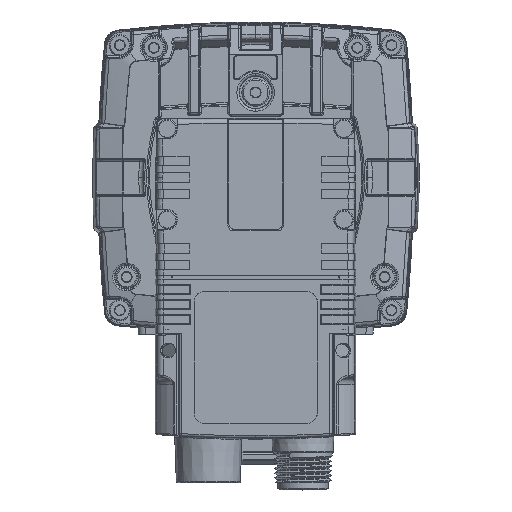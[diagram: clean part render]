
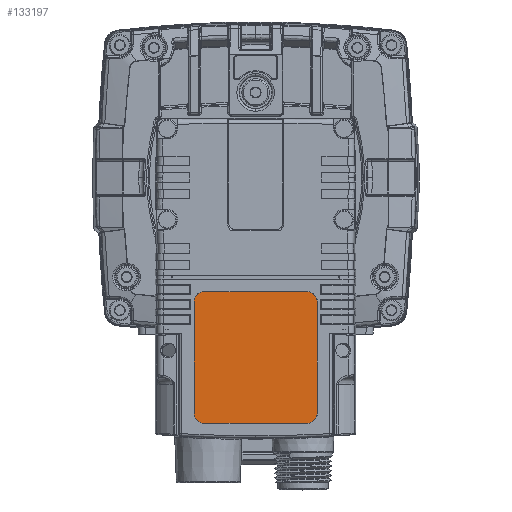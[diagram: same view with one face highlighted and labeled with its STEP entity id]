
A CAD part, top view. The second image highlights one B-rep face of the part: STEP entity #133197.
In plain terms, the highlighted planar face has unit normal (0, 0, 1).
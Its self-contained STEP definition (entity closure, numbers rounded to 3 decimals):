
#8927 = LINE ( 'NONE', #158593, #23353 ) ;
#10642 = CARTESIAN_POINT ( 'NONE',  ( 13., -4.15, 23.95 ) ) ;
#10677 = DIRECTION ( 'NONE',  ( 1., 0., 0. ) ) ;
#13452 = EDGE_CURVE ( 'NONE', #150553, #93275, #120206, .T. ) ;
#15813 = AXIS2_PLACEMENT_3D ( 'NONE', #208673, #74120, #61145 ) ;
#18840 = CARTESIAN_POINT ( 'NONE',  ( 10.929, -49.846, 23.95 ) ) ;
#20946 = DIRECTION ( 'NONE',  ( 0., 1., 0. ) ) ;
#23353 = VECTOR ( 'NONE', #191981, 1000. ) ;
#24623 = CARTESIAN_POINT ( 'NONE',  ( -10.929, -26.215, 23.95 ) ) ;
#25291 = DIRECTION ( 'NONE',  ( 1., 0., 0. ) ) ;
#27256 = ORIENTED_EDGE ( 'NONE', *, *, #180377, .T. ) ;
#37120 = CARTESIAN_POINT ( 'NONE',  ( 10.929, -26.215, 23.95 ) ) ;
#44652 = CARTESIAN_POINT ( 'NONE',  ( 0., -51.918, 23.95 ) ) ;
#49134 = EDGE_CURVE ( 'NONE', #118717, #124211, #105550, .T. ) ;
#49553 = VECTOR ( 'NONE', #103002, 1000. ) ;
#57027 = FACE_OUTER_BOUND ( 'NONE', #182271, .T. ) ;
#59420 = VERTEX_POINT ( 'NONE', #213215 ) ;
#61145 = DIRECTION ( 'NONE',  ( 0., 1., 0. ) ) ;
#61214 = DIRECTION ( 'NONE',  ( 0., 0., 1. ) ) ;
#63979 = VERTEX_POINT ( 'NONE', #102033 ) ;
#64926 = ORIENTED_EDGE ( 'NONE', *, *, #13452, .T. ) ;
#68040 = CIRCLE ( 'NONE', #164306, 2.071 ) ;
#74120 = DIRECTION ( 'NONE',  ( 0., 0., 1. ) ) ;
#74881 = LINE ( 'NONE', #44652, #143090 ) ;
#81158 = ORIENTED_EDGE ( 'NONE', *, *, #187251, .F. ) ;
#81588 = ORIENTED_EDGE ( 'NONE', *, *, #131981, .F. ) ;
#83751 = CARTESIAN_POINT ( 'NONE',  ( 10.929, -51.918, 23.95 ) ) ;
#86230 = ORIENTED_EDGE ( 'NONE', *, *, #49134, .F. ) ;
#86258 = EDGE_CURVE ( 'NONE', #59420, #124211, #74881, .T. ) ;
#89283 = CARTESIAN_POINT ( 'NONE',  ( -13., -26.215, 23.95 ) ) ;
#92559 = DIRECTION ( 'NONE',  ( 0., 0., 1. ) ) ;
#93275 = VERTEX_POINT ( 'NONE', #139652 ) ;
#98599 = DIRECTION ( 'NONE',  ( 0., 0., -1. ) ) ;
#99478 = AXIS2_PLACEMENT_3D ( 'NONE', #174339, #92559, #10677 ) ;
#101120 = CIRCLE ( 'NONE', #187056, 2.071 ) ;
#102033 = CARTESIAN_POINT ( 'NONE',  ( -13., -49.846, 23.95 ) ) ;
#103002 = DIRECTION ( 'NONE',  ( -1., 0., 0. ) ) ;
#105550 = CIRCLE ( 'NONE', #157209, 2.071 ) ;
#108641 = DIRECTION ( 'NONE',  ( 0., -1., 0. ) ) ;
#110372 = CARTESIAN_POINT ( 'NONE',  ( 10.929, -24.144, 23.95 ) ) ;
#112220 = ORIENTED_EDGE ( 'NONE', *, *, #197083, .T. ) ;
#118496 = CARTESIAN_POINT ( 'NONE',  ( 13., -26.215, 23.95 ) ) ;
#118717 = VERTEX_POINT ( 'NONE', #182923 ) ;
#120206 = LINE ( 'NONE', #138495, #49553 ) ;
#123702 = DIRECTION ( 'NONE',  ( 0., 1., 0. ) ) ;
#124211 = VERTEX_POINT ( 'NONE', #83751 ) ;
#128241 = EDGE_CURVE ( 'NONE', #165395, #63979, #8927, .T. ) ;
#131981 = EDGE_CURVE ( 'NONE', #178070, #118717, #172168, .T. ) ;
#133197 = ADVANCED_FACE ( 'NONE', ( #57027 ), #157124, .T. ) ;
#134321 = ORIENTED_EDGE ( 'NONE', *, *, #128241, .T. ) ;
#138495 = CARTESIAN_POINT ( 'NONE',  ( 0., -24.144, 23.95 ) ) ;
#139652 = CARTESIAN_POINT ( 'NONE',  ( -10.929, -24.144, 23.95 ) ) ;
#143090 = VECTOR ( 'NONE', #25291, 1000. ) ;
#150553 = VERTEX_POINT ( 'NONE', #110372 ) ;
#156761 = CIRCLE ( 'NONE', #15813, 2.071 ) ;
#157124 = PLANE ( 'NONE',  #99478 ) ;
#157209 = AXIS2_PLACEMENT_3D ( 'NONE', #18840, #98599, #166383 ) ;
#158593 = CARTESIAN_POINT ( 'NONE',  ( -13., -4.15, 23.95 ) ) ;
#162721 = ORIENTED_EDGE ( 'NONE', *, *, #86258, .T. ) ;
#164306 = AXIS2_PLACEMENT_3D ( 'NONE', #24623, #61214, #123702 ) ;
#165395 = VERTEX_POINT ( 'NONE', #89283 ) ;
#166383 = DIRECTION ( 'NONE',  ( 0., 1., 0. ) ) ;
#172168 = LINE ( 'NONE', #10642, #202302 ) ;
#174339 = CARTESIAN_POINT ( 'NONE',  ( 0., -4.15, 23.95 ) ) ;
#178070 = VERTEX_POINT ( 'NONE', #118496 ) ;
#180377 = EDGE_CURVE ( 'NONE', #63979, #59420, #156761, .T. ) ;
#182271 = EDGE_LOOP ( 'NONE', ( #134321, #27256, #162721, #86230, #81588, #81158, #64926, #112220 ) ) ;
#182923 = CARTESIAN_POINT ( 'NONE',  ( 13., -49.846, 23.95 ) ) ;
#187056 = AXIS2_PLACEMENT_3D ( 'NONE', #37120, #198702, #20946 ) ;
#187251 = EDGE_CURVE ( 'NONE', #150553, #178070, #101120, .T. ) ;
#191981 = DIRECTION ( 'NONE',  ( 0., -1., 0. ) ) ;
#197083 = EDGE_CURVE ( 'NONE', #93275, #165395, #68040, .T. ) ;
#198702 = DIRECTION ( 'NONE',  ( 0., 0., -1. ) ) ;
#202302 = VECTOR ( 'NONE', #108641, 1000. ) ;
#208673 = CARTESIAN_POINT ( 'NONE',  ( -10.929, -49.846, 23.95 ) ) ;
#213215 = CARTESIAN_POINT ( 'NONE',  ( -10.929, -51.918, 23.95 ) ) ;
